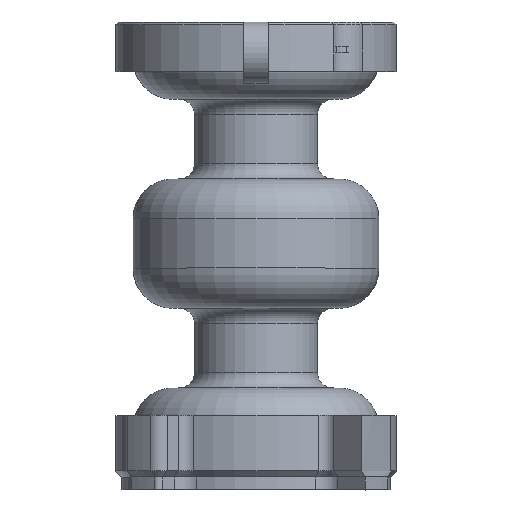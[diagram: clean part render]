
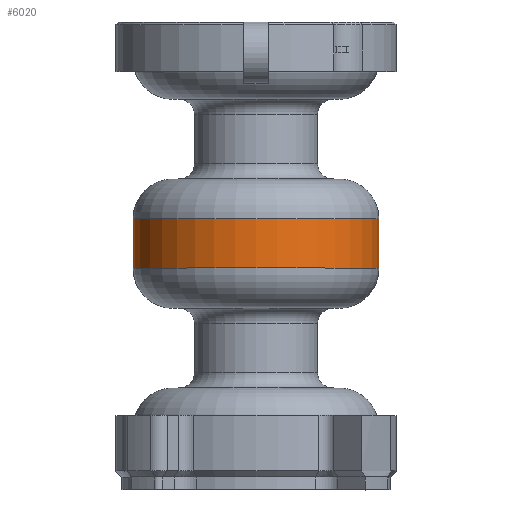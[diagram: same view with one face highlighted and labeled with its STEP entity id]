
A CAD part, top view. The second image highlights one B-rep face of the part: STEP entity #6020.
In plain terms, the highlighted cylindrical face has radius 10 mm (diameter 20 mm), a partial arc.
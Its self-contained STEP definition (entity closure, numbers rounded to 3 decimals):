
#422=FACE_OUTER_BOUND('',#808,.T.);
#808=EDGE_LOOP('',(#4437,#4438,#4439,#4440));
#1144=LINE('',#9457,#1612);
#1210=LINE('',#9763,#1678);
#1612=VECTOR('',#7354,10.);
#1678=VECTOR('',#7704,10.);
#2184=CIRCLE('',#6654,10.);
#2185=CIRCLE('',#6656,10.);
#2516=VERTEX_POINT('',#9450);
#2518=VERTEX_POINT('',#9456);
#2615=VERTEX_POINT('',#9758);
#2616=VERTEX_POINT('',#9762);
#3092=EDGE_CURVE('',#2518,#2516,#1144,.T.);
#3242=EDGE_CURVE('',#2616,#2615,#1210,.T.);
#3308=EDGE_CURVE('',#2516,#2615,#2184,.T.);
#3309=EDGE_CURVE('',#2518,#2616,#2185,.T.);
#4437=ORIENTED_EDGE('',*,*,#3092,.T.);
#4438=ORIENTED_EDGE('',*,*,#3308,.T.);
#4439=ORIENTED_EDGE('',*,*,#3242,.F.);
#4440=ORIENTED_EDGE('',*,*,#3309,.F.);
#5790=CYLINDRICAL_SURFACE('',#6655,10.);
#6020=ADVANCED_FACE('',(#422),#5790,.T.);
#6654=AXIS2_PLACEMENT_3D('',#9889,#7869,#7870);
#6655=AXIS2_PLACEMENT_3D('',#9890,#7871,#7872);
#6656=AXIS2_PLACEMENT_3D('',#9891,#7873,#7874);
#7354=DIRECTION('',(0.,1.,0.));
#7704=DIRECTION('',(0.,1.,0.));
#7869=DIRECTION('center_axis',(0.,-1.,0.));
#7870=DIRECTION('ref_axis',(1.,0.,0.));
#7871=DIRECTION('center_axis',(0.,-1.,0.));
#7872=DIRECTION('ref_axis',(1.,0.,0.));
#7873=DIRECTION('center_axis',(0.,-1.,0.));
#7874=DIRECTION('ref_axis',(1.,0.,0.));
#9450=CARTESIAN_POINT('',(10.,18.,6.116));
#9456=CARTESIAN_POINT('',(10.,14.,6.116));
#9457=CARTESIAN_POINT('',(10.,14.,6.116));
#9758=CARTESIAN_POINT('',(-10.,18.,6.116));
#9762=CARTESIAN_POINT('',(-10.,14.,6.116));
#9763=CARTESIAN_POINT('',(-10.,14.,6.116));
#9889=CARTESIAN_POINT('Origin',(0.,18.,6.116));
#9890=CARTESIAN_POINT('Origin',(0.,16.,
6.116));
#9891=CARTESIAN_POINT('Origin',(0.,14.,6.116));
